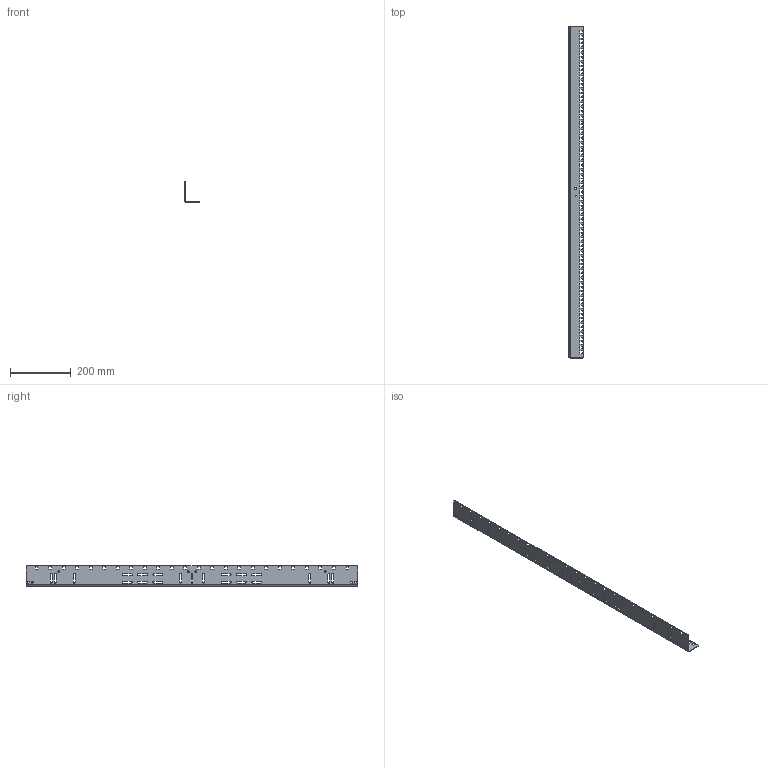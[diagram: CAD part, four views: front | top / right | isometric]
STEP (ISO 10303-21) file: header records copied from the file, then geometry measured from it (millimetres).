
FILE_DESCRIPTION(('1200 mm Thru Hole Rack Angle'),'2;1');
FILE_NAME('D:\a00506\p-ra1912thl1.stp','2003-06-17T10:40:43',( 'Rick Hagglund'),('Hoffman Enclosures Inc.'),'I-DEAS Master Series 9', 'UNIX','Yes');
FILE_SCHEMA(('AUTOMOTIVE_DESIGN { 1 0 10303 214 0 1 1 1 }'));
Length unit declared in the file: inch
Products named in the file (1): 87569989
Bounding box: 48.11 x 1091.41 x 66.67 mm (x, y, z)
Volume: 265612.7 mm3; surface area: 234880.1 mm2
Topology: 1 solids, 1 shells, 625 faces, 1783 edges, 1186 vertices
Faces by surface type: bspline 625
Entity records: 20641 total; most frequent: CARTESIAN_POINT 9389, ORIENTED_EDGE 3566, EDGE_CURVE 1783, QUASI_UNIFORM_CURVE 1207, VERTEX_POINT 1186, EDGE_LOOP 905, FACE_OUTER_BOUND 625, ADVANCED_FACE 625
